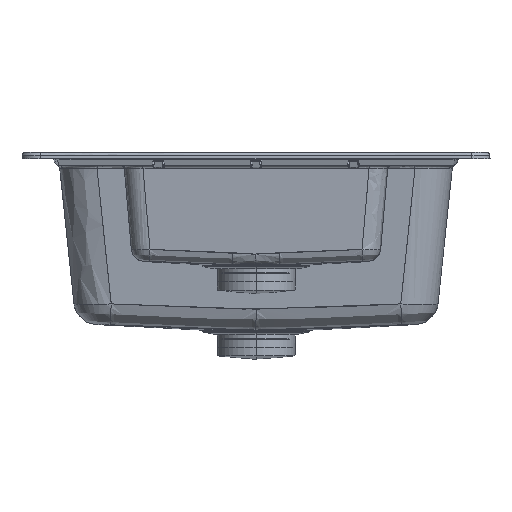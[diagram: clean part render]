
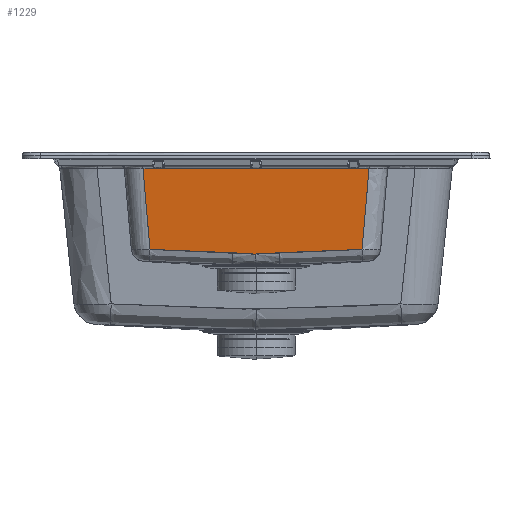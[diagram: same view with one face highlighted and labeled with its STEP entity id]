
A CAD part, left-side view. The second image highlights one B-rep face of the part: STEP entity #1229.
In plain terms, the highlighted planar face has unit normal (-0.996, 0, -0.087).
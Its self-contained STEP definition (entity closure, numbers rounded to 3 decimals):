
#1229=ADVANCED_FACE('',(#1757),#9230,.T.);
#1757=FACE_OUTER_BOUND('',#2362,.T.);
#2362=EDGE_LOOP('',(#4169));
#4169=ORIENTED_EDGE('',*,*,#5723,.T.);
#5723=EDGE_CURVE('',#8563,#8563,#6949,.T.);
#6949=B_SPLINE_CURVE_WITH_KNOTS('',3,(#24148,#24149,#24150,#24151,#24152,
#24153,#24154,#24155,#24156,#24157,#24158,#24159,#24160,#24161,#24162,#24163,
#24164,#24165,#24166,#24167,#24168,#24169,#24170,#24171,#24172,#24173,#24174,
#24175,#24176,#24177,#24178,#24179,#24180,#24181,#24182,#24183,#24184,#24185,
#24186,#24187,#24188,#24189,#24190,#24191,#24192,#24193,#24194,#24195,#24196,
#24197,#24198,#24199,#24200,#24201,#24202,#24203,#24204,#24205,#24206,#24207,
#24208,#24209,#24210,#24211,#24212,#24213,#24214,#24215,#24216,#24217,#24218,
#24219,#24220,#24221,#24222,#24223,#24224,#24225,#24226,#24227,#24228,#24229,
#24230,#24231,#24232,#24233,#24234,#24235,#24236,#24237),.UNSPECIFIED.,
 .T.,.F.,(4,1,1,3,3,1,1,1,1,1,1,1,1,1,1,1,1,1,1,1,1,1,1,1,1,1,1,3,1,1,1,
1,1,1,1,3,1,1,1,1,1,1,1,3,1,1,1,1,1,1,1,1,1,1,1,1,1,1,1,1,1,1,1,1,1,1,3,
3,1,1,3,4),(0.,0.333,0.667,1.,2.,2.043,2.087,
2.13,2.174,2.217,2.261,2.304,
2.348,2.391,2.435,2.478,2.522,
2.565,2.609,2.652,2.696,2.739,
2.783,2.826,2.87,2.913,2.957,
3.,3.125,3.25,3.375,3.5,3.625,3.75,3.875,4.,4.125,4.25,4.375,4.5,4.625,
4.75,4.875,5.,5.043,5.087,5.13,5.174,
5.217,5.261,5.304,5.348,5.391,
5.435,5.478,5.522,5.565,5.609,
5.652,5.696,5.739,5.783,5.826,
5.87,5.913,5.957,6.,7.,7.333,7.667,
8.,9.),.UNSPECIFIED.);
#8563=VERTEX_POINT('',#24147);
#9230=PLANE('',#9777);
#9777=AXIS2_PLACEMENT_3D('',#24146,#9836,$);
#9836=DIRECTION('',(-0.996,0.,-0.087));
#24146=CARTESIAN_POINT('',(-129.846,61.593,-15.756));
#24147=CARTESIAN_POINT('',(-129.686,38.275,-17.588));
#24148=CARTESIAN_POINT('',(-129.686,38.275,-17.588));
#24149=CARTESIAN_POINT('',(-129.686,40.33,-17.588));
#24150=CARTESIAN_POINT('',(-129.686,44.438,-17.587));
#24151=CARTESIAN_POINT('',(-129.686,50.6,-17.584));
#24152=CARTESIAN_POINT('',(-129.687,54.709,-17.581));
#24153=CARTESIAN_POINT('',(-129.687,56.763,-17.579));
#24154=CARTESIAN_POINT('',(-127.176,54.252,-46.278));
#24155=CARTESIAN_POINT('',(-124.665,51.741,-74.976));
#24156=CARTESIAN_POINT('',(-122.154,49.231,-103.675));
#24157=CARTESIAN_POINT('',(-122.15,48.078,-103.73));
#24158=CARTESIAN_POINT('',(-122.14,45.794,-103.838));
#24159=CARTESIAN_POINT('',(-122.126,42.457,-103.996));
#24160=CARTESIAN_POINT('',(-122.113,39.141,-104.152));
#24161=CARTESIAN_POINT('',(-122.099,35.794,-104.308));
#24162=CARTESIAN_POINT('',(-122.085,32.442,-104.464));
#24163=CARTESIAN_POINT('',(-122.072,29.21,-104.612));
#24164=CARTESIAN_POINT('',(-122.059,25.959,-104.761));
#24165=CARTESIAN_POINT('',(-122.046,22.443,-104.92));
#24166=CARTESIAN_POINT('',(-122.03,18.439,-105.099));
#24167=CARTESIAN_POINT('',(-122.012,13.765,-105.305));
#24168=CARTESIAN_POINT('',(-121.993,8.893,-105.516));
#24169=CARTESIAN_POINT('',(-121.976,4.165,-105.716));
#24170=CARTESIAN_POINT('',(-121.96,-0.35,-105.902));
#24171=CARTESIAN_POINT('',(-121.945,-4.61,-106.073));
#24172=CARTESIAN_POINT('',(-121.931,-8.717,-106.233));
#24173=CARTESIAN_POINT('',(-121.917,-12.753,-106.385));
#24174=CARTESIAN_POINT('',(-121.905,-16.781,-106.531));
#24175=CARTESIAN_POINT('',(-121.893,-20.735,-106.667));
#24176=CARTESIAN_POINT('',(-121.882,-24.549,-106.792));
#24177=CARTESIAN_POINT('',(-121.872,-28.217,-106.906));
#24178=CARTESIAN_POINT('',(-121.863,-31.793,-107.009));
#24179=CARTESIAN_POINT('',(-121.855,-35.313,-107.102));
#24180=CARTESIAN_POINT('',(-121.85,-37.623,-107.158));
#24181=CARTESIAN_POINT('',(-121.847,-38.768,-107.185));
#24182=CARTESIAN_POINT('',(-121.845,-39.957,-107.212));
#24183=CARTESIAN_POINT('',(-121.836,-42.297,-107.316));
#24184=CARTESIAN_POINT('',(-121.814,-45.731,-107.568));
#24185=CARTESIAN_POINT('',(-121.789,-48.984,-107.854));
#24186=CARTESIAN_POINT('',(-121.764,-52.126,-108.138));
#24187=CARTESIAN_POINT('',(-121.742,-55.176,-108.391));
#24188=CARTESIAN_POINT('',(-121.725,-58.153,-108.587));
#24189=CARTESIAN_POINT('',(-121.714,-61.078,-108.711));
#24190=CARTESIAN_POINT('',(-121.711,-63.028,-108.74));
#24191=CARTESIAN_POINT('',(-121.711,-64.,-108.74));
#24192=CARTESIAN_POINT('',(-121.711,-64.972,-108.74));
#24193=CARTESIAN_POINT('',(-121.714,-66.922,-108.711));
#24194=CARTESIAN_POINT('',(-121.725,-69.847,-108.587));
#24195=CARTESIAN_POINT('',(-121.742,-72.825,-108.39));
#24196=CARTESIAN_POINT('',(-121.764,-75.874,-108.138));
#24197=CARTESIAN_POINT('',(-121.789,-79.017,-107.854));
#24198=CARTESIAN_POINT('',(-121.814,-82.271,-107.567));
#24199=CARTESIAN_POINT('',(-121.836,-85.705,-107.316));
#24200=CARTESIAN_POINT('',(-121.845,-88.044,-107.212));
#24201=CARTESIAN_POINT('',(-121.847,-89.232,-107.185));
#24202=CARTESIAN_POINT('',(-121.85,-90.379,-107.158));
#24203=CARTESIAN_POINT('',(-121.855,-92.692,-107.102));
#24204=CARTESIAN_POINT('',(-121.863,-96.218,-107.008));
#24205=CARTESIAN_POINT('',(-121.872,-99.799,-106.905));
#24206=CARTESIAN_POINT('',(-121.882,-103.475,-106.792));
#24207=CARTESIAN_POINT('',(-121.893,-107.296,-106.666));
#24208=CARTESIAN_POINT('',(-121.905,-111.258,-106.529));
#24209=CARTESIAN_POINT('',(-121.917,-115.29,-106.383));
#24210=CARTESIAN_POINT('',(-121.931,-119.329,-106.231));
#24211=CARTESIAN_POINT('',(-121.945,-123.441,-106.071));
#24212=CARTESIAN_POINT('',(-121.96,-127.708,-105.9));
#24213=CARTESIAN_POINT('',(-121.976,-132.232,-105.713));
#24214=CARTESIAN_POINT('',(-121.994,-136.966,-105.513));
#24215=CARTESIAN_POINT('',(-122.012,-141.841,-105.302));
#24216=CARTESIAN_POINT('',(-122.03,-146.495,-105.097));
#24217=CARTESIAN_POINT('',(-122.046,-150.471,-104.919));
#24218=CARTESIAN_POINT('',(-122.059,-153.971,-104.76));
#24219=CARTESIAN_POINT('',(-122.072,-157.211,-104.612));
#24220=CARTESIAN_POINT('',(-122.085,-160.446,-104.464));
#24221=CARTESIAN_POINT('',(-122.099,-163.798,-104.308));
#24222=CARTESIAN_POINT('',(-122.113,-167.139,-104.152));
#24223=CARTESIAN_POINT('',(-122.126,-170.453,-103.996));
#24224=CARTESIAN_POINT('',(-122.14,-173.79,-103.838));
#24225=CARTESIAN_POINT('',(-122.15,-176.076,-103.73));
#24226=CARTESIAN_POINT('',(-122.154,-177.231,-103.675));
#24227=CARTESIAN_POINT('',(-124.665,-179.741,-74.976));
#24228=CARTESIAN_POINT('',(-127.176,-182.252,-46.278));
#24229=CARTESIAN_POINT('',(-129.687,-184.763,-17.579));
#24230=CARTESIAN_POINT('',(-129.687,-182.709,-17.581));
#24231=CARTESIAN_POINT('',(-129.686,-178.6,-17.584));
#24232=CARTESIAN_POINT('',(-129.686,-172.438,-17.587));
#24233=CARTESIAN_POINT('',(-129.686,-168.33,-17.588));
#24234=CARTESIAN_POINT('',(-129.686,-166.275,-17.588));
#24235=CARTESIAN_POINT('',(-129.686,-98.092,-17.588));
#24236=CARTESIAN_POINT('',(-129.686,-29.908,-17.588));
#24237=CARTESIAN_POINT('',(-129.686,38.275,-17.588));
